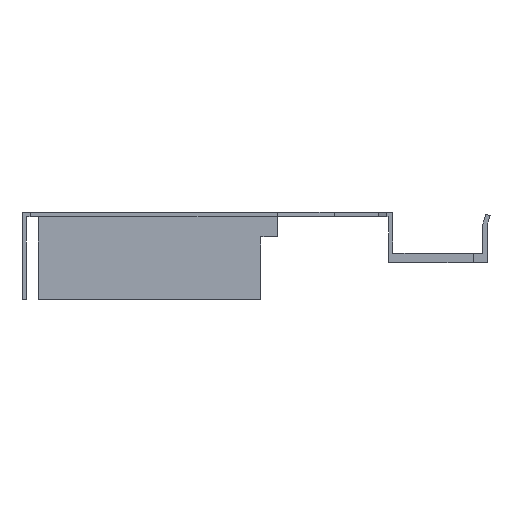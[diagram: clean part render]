
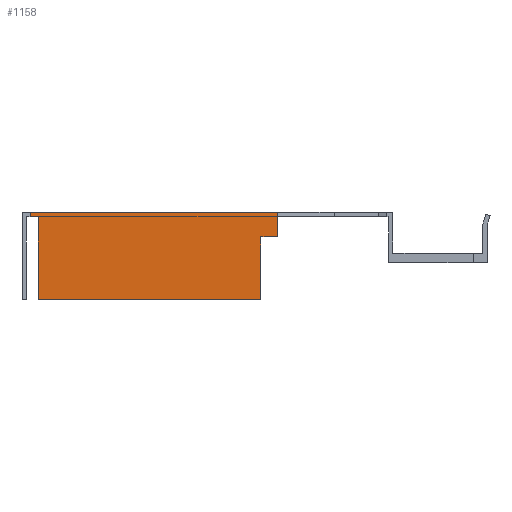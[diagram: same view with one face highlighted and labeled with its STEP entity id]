
A CAD part, left-side view. The second image highlights one B-rep face of the part: STEP entity #1158.
In plain terms, the highlighted planar face has unit normal (-1, 0, 0).
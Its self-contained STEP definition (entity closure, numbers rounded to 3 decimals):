
#33 = CARTESIAN_POINT ( 'NONE',  ( -1115., 24.2, 3. ) ) ;
#36 = CARTESIAN_POINT ( 'NONE',  ( -1115., 65., -8.5 ) ) ;
#37 = CARTESIAN_POINT ( 'NONE',  ( -1115., 21.2, 3. ) ) ;
#46 = CARTESIAN_POINT ( 'NONE',  ( -1115., 24.2, -8.5 ) ) ;
#69 = VERTEX_POINT ( 'NONE', #46 ) ;
#78 = VERTEX_POINT ( 'NONE', #37 ) ;
#79 = VERTEX_POINT ( 'NONE', #36 ) ;
#82 = VERTEX_POINT ( 'NONE', #33 ) ;
#117 = VERTEX_POINT ( 'NONE', #1192 ) ;
#123 = VERTEX_POINT ( 'NONE', #1212 ) ;
#134 = VERTEX_POINT ( 'NONE', #1198 ) ;
#144 = VERTEX_POINT ( 'NONE', #659 ) ;
#257 = PLANE ( 'NONE',  #937 ) ;
#260 = CARTESIAN_POINT ( 'NONE',  ( -1115., -16.5, 0. ) ) ;
#266 = DIRECTION ( 'NONE',  ( -1., 0., 0. ) ) ;
#267 = DIRECTION ( 'NONE',  ( 0., 0., 1. ) ) ;
#466 = CARTESIAN_POINT ( 'NONE',  ( -1115., 0., 7.5 ) ) ;
#479 = DIRECTION ( 'NONE',  ( 0., -1., 0. ) ) ;
#524 = CARTESIAN_POINT ( 'NONE',  ( -1115., 0.8, 6.7 ) ) ;
#525 = DIRECTION ( 'NONE',  ( 0., 1., 0. ) ) ;
#587 = CARTESIAN_POINT ( 'NONE',  ( -1115., 24.2, -8.5 ) ) ;
#588 = DIRECTION ( 'NONE',  ( 0., 0., 1. ) ) ;
#614 = CARTESIAN_POINT ( 'NONE',  ( -1115., 65., -8.5 ) ) ;
#615 = DIRECTION ( 'NONE',  ( 0., -1., 0. ) ) ;
#616 = CARTESIAN_POINT ( 'NONE',  ( -1115., 21.2, 0. ) ) ;
#617 = DIRECTION ( 'NONE',  ( 0., 0., -1. ) ) ;
#620 = CARTESIAN_POINT ( 'NONE',  ( -1115., 65., 7.5 ) ) ;
#621 = DIRECTION ( 'NONE',  ( 0., 0., -1. ) ) ;
#624 = CARTESIAN_POINT ( 'NONE',  ( -1115., 24.2, 3. ) ) ;
#625 = DIRECTION ( 'NONE',  ( 0., -1., 0. ) ) ;
#633 = CARTESIAN_POINT ( 'NONE',  ( -1115., 66.5, 6.7 ) ) ;
#634 = DIRECTION ( 'NONE',  ( 0., 0., 1. ) ) ;
#659 = CARTESIAN_POINT ( 'NONE',  ( -1115., 66.5, 7.5 ) ) ;
#687 = ORIENTED_EDGE ( 'NONE', *, *, #1588, .F. ) ;
#688 = ORIENTED_EDGE ( 'NONE', *, *, #1656, .F. ) ;
#689 = ORIENTED_EDGE ( 'NONE', *, *, #1660, .T. ) ;
#690 = ORIENTED_EDGE ( 'NONE', *, *, #1641, .T. ) ;
#691 = ORIENTED_EDGE ( 'NONE', *, *, #1655, .T. ) ;
#692 = ORIENTED_EDGE ( 'NONE', *, *, #1658, .T. ) ;
#693 = ORIENTED_EDGE ( 'NONE', *, *, #1611, .F. ) ;
#694 = ORIENTED_EDGE ( 'NONE', *, *, #1673, .F. ) ;
#826 = EDGE_LOOP ( 'NONE', ( #694, #693, #692, #691, #690, #689, #688, #687 ) ) ;
#937 = AXIS2_PLACEMENT_3D ( 'NONE', #260, #266, #267 ) ;
#985 = VECTOR ( 'NONE', #479, 1000. ) ;
#1031 = LINE ( 'NONE', #524, #1032 ) ;
#1032 = VECTOR ( 'NONE', #525, 1000. ) ;
#1084 = LINE ( 'NONE', #587, #1086 ) ;
#1086 = VECTOR ( 'NONE', #588, 1000. ) ;
#1113 = LINE ( 'NONE', #614, #1114 ) ;
#1114 = VECTOR ( 'NONE', #615, 1000. ) ;
#1115 = LINE ( 'NONE', #616, #1116 ) ;
#1116 = VECTOR ( 'NONE', #617, 1000. ) ;
#1119 = LINE ( 'NONE', #620, #1120 ) ;
#1120 = VECTOR ( 'NONE', #621, 1000. ) ;
#1123 = LINE ( 'NONE', #624, #1124 ) ;
#1124 = VECTOR ( 'NONE', #625, 1000. ) ;
#1131 = LINE ( 'NONE', #633, #1132 ) ;
#1132 = VECTOR ( 'NONE', #634, 1000. ) ;
#1158 = ADVANCED_FACE ( 'NONE', ( #1441 ), #257, .T. ) ;
#1192 = CARTESIAN_POINT ( 'NONE',  ( -1115., 21.2, 7.5 ) ) ;
#1198 = CARTESIAN_POINT ( 'NONE',  ( -1115., 66.5, 6.7 ) ) ;
#1212 = CARTESIAN_POINT ( 'NONE',  ( -1115., 65., 6.7 ) ) ;
#1441 = FACE_OUTER_BOUND ( 'NONE', #826, .T. ) ;
#1533 = LINE ( 'NONE', #466, #985 ) ;
#1588 = EDGE_CURVE ( 'NONE', #144, #117, #1533, .T. ) ;
#1611 = EDGE_CURVE ( 'NONE', #123, #134, #1031, .T. ) ;
#1641 = EDGE_CURVE ( 'NONE', #69, #82, #1084, .T. ) ;
#1655 = EDGE_CURVE ( 'NONE', #79, #69, #1113, .T. ) ;
#1656 = EDGE_CURVE ( 'NONE', #117, #78, #1115, .T. ) ;
#1658 = EDGE_CURVE ( 'NONE', #123, #79, #1119, .T. ) ;
#1660 = EDGE_CURVE ( 'NONE', #82, #78, #1123, .T. ) ;
#1673 = EDGE_CURVE ( 'NONE', #134, #144, #1131, .T. ) ;
